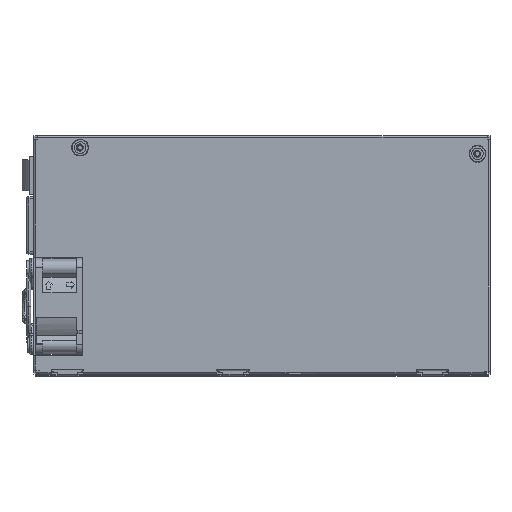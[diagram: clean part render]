
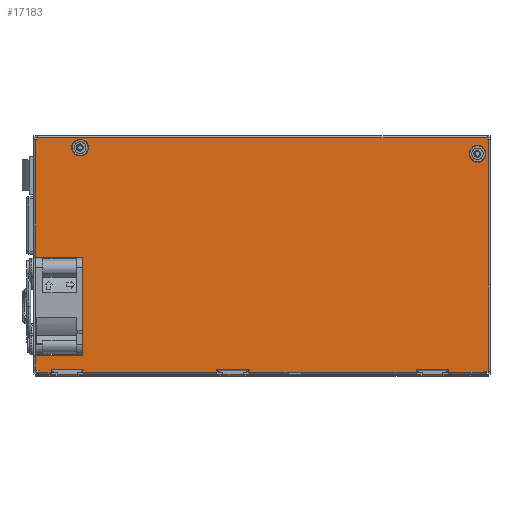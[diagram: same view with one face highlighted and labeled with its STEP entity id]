
A CAD part, top view. The second image highlights one B-rep face of the part: STEP entity #17183.
In plain terms, the highlighted planar face has unit normal (0, 0, 1).
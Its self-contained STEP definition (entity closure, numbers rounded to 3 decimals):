
#6325=DIRECTION('',(0.,-1.,0.));
#6326=VECTOR('',#6325,0.8);
#6327=CARTESIAN_POINT('',(2.4,1.6,0.8));
#6328=LINE('',#6327,#6326);
#6898=DIRECTION('',(-1.,0.,0.));
#6899=VECTOR('',#6898,0.8);
#6900=CARTESIAN_POINT('',(1.6,97.6,0.8));
#6901=LINE('',#6900,#6899);
#7511=DIRECTION('',(0.,1.,0.));
#7512=VECTOR('',#7511,0.8);
#7513=CARTESIAN_POINT('',(188.8,97.6,0.8));
#7514=LINE('',#7513,#7512);
#8944=DIRECTION('',(1.,0.,0.));
#8945=VECTOR('',#8944,1.6);
#8946=CARTESIAN_POINT('',(187.6,1.2,0.8));
#8947=LINE('',#8946,#8945);
#9029=DIRECTION('',(1.,0.,0.));
#9030=VECTOR('',#9029,47.85);
#9031=CARTESIAN_POINT('',(111.4,0.813,0.801));
#9032=LINE('',#9031,#9030);
#9041=CARTESIAN_POINT('',(111.4,0.813,0.801));
#9049=DIRECTION('',(0.,-1.,0.));
#9050=VECTOR('',#9049,1.2);
#9051=CARTESIAN_POINT('',(76.25,2.,0.8));
#9052=LINE('',#9051,#9050);
#9053=DIRECTION('',(0.,-1.,0.));
#9054=VECTOR('',#9053,1.2);
#9055=CARTESIAN_POINT('',(7.25,2.,0.8));
#9056=LINE('',#9055,#9054);
#9057=DIRECTION('',(-1.,0.,0.));
#9058=VECTOR('',#9057,1.6);
#9059=CARTESIAN_POINT('',(2.4,1.6,0.8));
#9060=LINE('',#9059,#9058);
#9061=DIRECTION('',(-1.,0.,0.));
#9062=VECTOR('',#9061,19.7);
#9063=CARTESIAN_POINT('',(20.5,48.7,0.8));
#9064=LINE('',#9063,#9062);
#9065=DIRECTION('',(0.,1.,0.));
#9066=VECTOR('',#9065,0.8);
#9067=CARTESIAN_POINT('',(1.6,97.6,0.8));
#9068=LINE('',#9067,#9066);
#9069=DIRECTION('',(1.,0.,0.));
#9070=VECTOR('',#9069,0.4);
#9071=CARTESIAN_POINT('',(188.8,97.6,0.8));
#9072=LINE('',#9071,#9070);
#9073=DIRECTION('',(0.,-1.,0.));
#9074=VECTOR('',#9073,0.4);
#9075=CARTESIAN_POINT('',(187.6,1.2,0.8));
#9076=LINE('',#9075,#9074);
#9077=DIRECTION('',(0.,-1.,0.));
#9078=VECTOR('',#9077,1.2);
#9079=CARTESIAN_POINT('',(159.25,2.,0.8));
#9080=LINE('',#9079,#9078);
#9081=DIRECTION('',(-1.,0.,0.));
#9082=VECTOR('',#9081,5.5);
#9083=CARTESIAN_POINT('',(111.4,0.813,0.801));
#9084=LINE('',#9083,#9082);
#9085=CARTESIAN_POINT('',(184.8,91.7,0.8));
#9086=DIRECTION('',(0.,0.,1.));
#9087=DIRECTION('',(1.,0.,0.));
#9088=AXIS2_PLACEMENT_3D('',#9085,#9086,#9087);
#9090=CARTESIAN_POINT('',(184.8,91.7,0.8));
#9091=DIRECTION('',(0.,0.,1.));
#9092=DIRECTION('',(-1.,0.,0.));
#9093=AXIS2_PLACEMENT_3D('',#9090,#9091,#9092);
#9095=CARTESIAN_POINT('',(19.3,94.3,0.8));
#9096=DIRECTION('',(0.,0.,1.));
#9097=DIRECTION('',(1.,0.,0.));
#9098=AXIS2_PLACEMENT_3D('',#9095,#9096,#9097);
#9100=CARTESIAN_POINT('',(19.3,94.3,0.8));
#9101=DIRECTION('',(0.,0.,1.));
#9102=DIRECTION('',(-1.,0.,0.));
#9103=AXIS2_PLACEMENT_3D('',#9100,#9101,#9102);
#9109=DIRECTION('',(1.,0.001,0.));
#9110=VECTOR('',#9109,16.15);
#9111=CARTESIAN_POINT('',(89.75,0.8,0.8));
#9112=LINE('',#9111,#9110);
#9122=DIRECTION('',(0.,-1.,0.));
#9123=VECTOR('',#9122,1.2);
#9124=CARTESIAN_POINT('',(89.75,2.,0.8));
#9125=LINE('',#9124,#9123);
#9130=DIRECTION('',(1.,0.,0.));
#9131=VECTOR('',#9130,13.5);
#9132=CARTESIAN_POINT('',(76.25,2.,0.8));
#9133=LINE('',#9132,#9131);
#9215=DIRECTION('',(1.,0.,0.));
#9216=VECTOR('',#9215,55.5);
#9217=CARTESIAN_POINT('',(20.75,0.8,0.8));
#9218=LINE('',#9217,#9216);
#9228=DIRECTION('',(0.,-1.,0.));
#9229=VECTOR('',#9228,1.2);
#9230=CARTESIAN_POINT('',(20.75,2.,0.8));
#9231=LINE('',#9230,#9229);
#9236=DIRECTION('',(1.,0.,0.));
#9237=VECTOR('',#9236,13.5);
#9238=CARTESIAN_POINT('',(7.25,2.,0.8));
#9239=LINE('',#9238,#9237);
#9321=DIRECTION('',(1.,0.,0.));
#9322=VECTOR('',#9321,4.85);
#9323=CARTESIAN_POINT('',(2.4,0.8,0.8));
#9324=LINE('',#9323,#9322);
#9325=DIRECTION('',(0.,-1.,0.));
#9326=VECTOR('',#9325,6.1);
#9327=CARTESIAN_POINT('',(0.8,7.7,0.8));
#9328=LINE('',#9327,#9326);
#9342=DIRECTION('',(-1.,0.,0.));
#9343=VECTOR('',#9342,19.7);
#9344=CARTESIAN_POINT('',(20.5,7.7,0.8));
#9345=LINE('',#9344,#9343);
#9350=DIRECTION('',(0.,-1.,0.));
#9351=VECTOR('',#9350,41.);
#9352=CARTESIAN_POINT('',(20.5,48.7,0.8));
#9353=LINE('',#9352,#9351);
#9395=DIRECTION('',(0.,-1.,0.));
#9396=VECTOR('',#9395,48.9);
#9397=CARTESIAN_POINT('',(0.8,97.6,0.8));
#9398=LINE('',#9397,#9396);
#9399=DIRECTION('',(-1.,0.,0.));
#9400=VECTOR('',#9399,187.2);
#9401=CARTESIAN_POINT('',(188.8,98.4,0.8));
#9402=LINE('',#9401,#9400);
#9688=DIRECTION('',(0.,1.,0.));
#9689=VECTOR('',#9688,96.4);
#9690=CARTESIAN_POINT('',(189.2,1.2,0.8));
#9691=LINE('',#9690,#9689);
#9700=DIRECTION('',(1.,0.,0.));
#9701=VECTOR('',#9700,14.85);
#9702=CARTESIAN_POINT('',(172.75,0.8,0.8));
#9703=LINE('',#9702,#9701);
#9713=DIRECTION('',(0.,-1.,0.));
#9714=VECTOR('',#9713,1.2);
#9715=CARTESIAN_POINT('',(172.75,2.,0.8));
#9716=LINE('',#9715,#9714);
#9721=DIRECTION('',(1.,0.,0.));
#9722=VECTOR('',#9721,13.5);
#9723=CARTESIAN_POINT('',(159.25,2.,0.8));
#9724=LINE('',#9723,#9722);
#12124=CARTESIAN_POINT('',(188.8,98.4,0.8));
#12125=VERTEX_POINT('',#12124);
#12126=CARTESIAN_POINT('',(188.8,97.6,0.8));
#12127=VERTEX_POINT('',#12126);
#12128=CARTESIAN_POINT('',(189.2,97.6,0.8));
#12129=VERTEX_POINT('',#12128);
#12728=CARTESIAN_POINT('',(189.2,1.2,0.8));
#12729=VERTEX_POINT('',#12728);
#12730=CARTESIAN_POINT('',(187.6,1.2,0.8));
#12731=VERTEX_POINT('',#12730);
#12732=CARTESIAN_POINT('',(187.6,0.8,0.8));
#12733=VERTEX_POINT('',#12732);
#12870=CARTESIAN_POINT('',(2.4,0.8,0.8));
#12871=VERTEX_POINT('',#12870);
#12872=CARTESIAN_POINT('',(7.25,0.8,0.8));
#12873=VERTEX_POINT('',#12872);
#12874=CARTESIAN_POINT('',(172.75,0.8,0.8));
#12875=VERTEX_POINT('',#12874);
#12876=CARTESIAN_POINT('',(20.75,0.8,0.8));
#12877=VERTEX_POINT('',#12876);
#12878=CARTESIAN_POINT('',(76.25,0.8,0.8));
#12879=VERTEX_POINT('',#12878);
#12880=CARTESIAN_POINT('',(89.75,0.8,0.8));
#12881=VERTEX_POINT('',#12880);
#12882=CARTESIAN_POINT('',(105.9,0.813,0.801));
#12883=VERTEX_POINT('',#12882);
#12884=VERTEX_POINT('',#9041);
#12886=CARTESIAN_POINT('',(159.25,0.8,0.8));
#12887=VERTEX_POINT('',#12886);
#12888=CARTESIAN_POINT('',(2.4,1.6,0.8));
#12889=VERTEX_POINT('',#12888);
#12890=CARTESIAN_POINT('',(0.8,1.6,0.8));
#12891=VERTEX_POINT('',#12890);
#13200=CARTESIAN_POINT('',(0.8,97.6,0.8));
#13201=VERTEX_POINT('',#13200);
#13202=CARTESIAN_POINT('',(1.6,97.6,0.8));
#13203=VERTEX_POINT('',#13202);
#13204=CARTESIAN_POINT('',(1.6,98.4,0.8));
#13205=VERTEX_POINT('',#13204);
#13206=CARTESIAN_POINT('',(89.75,2.,0.8));
#13207=VERTEX_POINT('',#13206);
#13208=CARTESIAN_POINT('',(76.25,2.,0.8));
#13209=VERTEX_POINT('',#13208);
#13210=CARTESIAN_POINT('',(20.75,2.,0.8));
#13211=VERTEX_POINT('',#13210);
#13212=CARTESIAN_POINT('',(7.25,2.,0.8));
#13213=VERTEX_POINT('',#13212);
#13214=CARTESIAN_POINT('',(0.8,7.7,0.8));
#13215=VERTEX_POINT('',#13214);
#13216=CARTESIAN_POINT('',(20.5,7.7,0.8));
#13217=VERTEX_POINT('',#13216);
#13218=CARTESIAN_POINT('',(20.5,48.7,0.8));
#13219=VERTEX_POINT('',#13218);
#13220=CARTESIAN_POINT('',(0.8,48.7,0.8));
#13221=VERTEX_POINT('',#13220);
#13222=CARTESIAN_POINT('',(172.75,2.,0.8));
#13223=VERTEX_POINT('',#13222);
#13224=CARTESIAN_POINT('',(159.25,2.,0.8));
#13225=VERTEX_POINT('',#13224);
#13414=CARTESIAN_POINT('',(187.2,91.7,0.8));
#13415=CARTESIAN_POINT('',(182.4,91.7,0.8));
#13416=VERTEX_POINT('',#13414);
#13417=VERTEX_POINT('',#13415);
#13422=CARTESIAN_POINT('',(21.7,94.3,0.8));
#13423=CARTESIAN_POINT('',(16.9,94.3,0.8));
#13424=VERTEX_POINT('',#13422);
#13425=VERTEX_POINT('',#13423);
#17114=CARTESIAN_POINT('',(0.,0.,0.8));
#17115=DIRECTION('',(0.,0.,1.));
#17116=DIRECTION('',(1.,0.,0.));
#17117=AXIS2_PLACEMENT_3D('',#17114,#17115,#17116);
#17118=PLANE('',#17117);
#17120=ORIENTED_EDGE('',*,*,#17119,.F.);
#17122=ORIENTED_EDGE('',*,*,#17121,.F.);
#17124=ORIENTED_EDGE('',*,*,#17123,.F.);
#17126=ORIENTED_EDGE('',*,*,#17125,.T.);
#17128=ORIENTED_EDGE('',*,*,#17127,.F.);
#17130=ORIENTED_EDGE('',*,*,#17129,.F.);
#17132=ORIENTED_EDGE('',*,*,#17131,.F.);
#17134=ORIENTED_EDGE('',*,*,#17133,.T.);
#17136=ORIENTED_EDGE('',*,*,#17135,.F.);
#17137=ORIENTED_EDGE('',*,*,#13934,.F.);
#17138=ORIENTED_EDGE('',*,*,#13948,.T.);
#17140=ORIENTED_EDGE('',*,*,#17139,.F.);
#17142=ORIENTED_EDGE('',*,*,#17141,.F.);
#17144=ORIENTED_EDGE('',*,*,#17143,.F.);
#17146=ORIENTED_EDGE('',*,*,#17145,.T.);
#17148=ORIENTED_EDGE('',*,*,#17147,.F.);
#17149=ORIENTED_EDGE('',*,*,#14497,.F.);
#17150=ORIENTED_EDGE('',*,*,#14511,.T.);
#17152=ORIENTED_EDGE('',*,*,#17151,.F.);
#17153=ORIENTED_EDGE('',*,*,#15398,.F.);
#17154=ORIENTED_EDGE('',*,*,#15412,.T.);
#17156=ORIENTED_EDGE('',*,*,#17155,.F.);
#17157=ORIENTED_EDGE('',*,*,#16958,.F.);
#17158=ORIENTED_EDGE('',*,*,#16972,.T.);
#17160=ORIENTED_EDGE('',*,*,#17159,.F.);
#17162=ORIENTED_EDGE('',*,*,#17161,.F.);
#17164=ORIENTED_EDGE('',*,*,#17163,.F.);
#17166=ORIENTED_EDGE('',*,*,#17165,.T.);
#17167=ORIENTED_EDGE('',*,*,#17094,.F.);
#17168=ORIENTED_EDGE('',*,*,#13536,.T.);
#17169=EDGE_LOOP('',(#17120,#17122,#17124,#17126,#17128,#17130,#17132,#17134,
#17136,#17137,#17138,#17140,#17142,#17144,#17146,#17148,#17149,#17150,#17152,
#17153,#17154,#17156,#17157,#17158,#17160,#17162,#17164,#17166,#17167,#17168));
#17170=FACE_OUTER_BOUND('',#17169,.F.);
#17172=ORIENTED_EDGE('',*,*,#17171,.T.);
#17174=ORIENTED_EDGE('',*,*,#17173,.T.);
#17175=EDGE_LOOP('',(#17172,#17174));
#17176=FACE_BOUND('',#17175,.F.);
#17178=ORIENTED_EDGE('',*,*,#17177,.T.);
#17180=ORIENTED_EDGE('',*,*,#17179,.T.);
#17181=EDGE_LOOP('',(#17178,#17180));
#17182=FACE_BOUND('',#17181,.F.);
#9089=CIRCLE('',#9088,2.4);
#9094=CIRCLE('',#9093,2.4);
#9099=CIRCLE('',#9098,2.4);
#9104=CIRCLE('',#9103,2.4);
#13536=EDGE_CURVE('',#12884,#12883,#9084,.T.);
#13934=EDGE_CURVE('',#12889,#12871,#6328,.T.);
#13948=EDGE_CURVE('',#12889,#12891,#9060,.T.);
#14497=EDGE_CURVE('',#13203,#13201,#6901,.T.);
#14511=EDGE_CURVE('',#13203,#13205,#9068,.T.);
#15398=EDGE_CURVE('',#12127,#12125,#7514,.T.);
#15412=EDGE_CURVE('',#12127,#12129,#9072,.T.);
#16958=EDGE_CURVE('',#12731,#12729,#8947,.T.);
#16972=EDGE_CURVE('',#12731,#12733,#9076,.T.);
#17094=EDGE_CURVE('',#12884,#12887,#9032,.T.);
#17119=EDGE_CURVE('',#12881,#12883,#9112,.T.);
#17121=EDGE_CURVE('',#13207,#12881,#9125,.T.);
#17123=EDGE_CURVE('',#13209,#13207,#9133,.T.);
#17125=EDGE_CURVE('',#13209,#12879,#9052,.T.);
#17127=EDGE_CURVE('',#12877,#12879,#9218,.T.);
#17129=EDGE_CURVE('',#13211,#12877,#9231,.T.);
#17131=EDGE_CURVE('',#13213,#13211,#9239,.T.);
#17133=EDGE_CURVE('',#13213,#12873,#9056,.T.);
#17135=EDGE_CURVE('',#12871,#12873,#9324,.T.);
#17139=EDGE_CURVE('',#13215,#12891,#9328,.T.);
#17141=EDGE_CURVE('',#13217,#13215,#9345,.T.);
#17143=EDGE_CURVE('',#13219,#13217,#9353,.T.);
#17145=EDGE_CURVE('',#13219,#13221,#9064,.T.);
#17147=EDGE_CURVE('',#13201,#13221,#9398,.T.);
#17151=EDGE_CURVE('',#12125,#13205,#9402,.T.);
#17155=EDGE_CURVE('',#12729,#12129,#9691,.T.);
#17159=EDGE_CURVE('',#12875,#12733,#9703,.T.);
#17161=EDGE_CURVE('',#13223,#12875,#9716,.T.);
#17163=EDGE_CURVE('',#13225,#13223,#9724,.T.);
#17165=EDGE_CURVE('',#13225,#12887,#9080,.T.);
#17171=EDGE_CURVE('',#13416,#13417,#9089,.T.);
#17173=EDGE_CURVE('',#13417,#13416,#9094,.T.);
#17177=EDGE_CURVE('',#13424,#13425,#9099,.T.);
#17179=EDGE_CURVE('',#13425,#13424,#9104,.T.);
#17183=ADVANCED_FACE('',(#17170,#17176,#17182),#17118,.T.);
